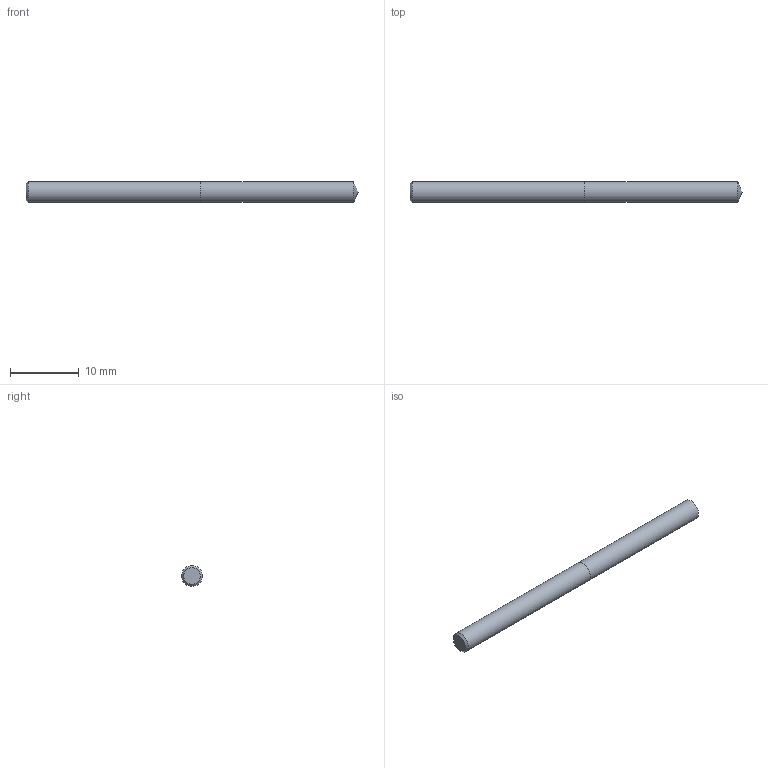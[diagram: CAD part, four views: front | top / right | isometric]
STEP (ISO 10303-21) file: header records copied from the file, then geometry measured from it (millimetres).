
FILE_DESCRIPTION (( 'STEP AP214' ), '1' );
FILE_NAME ('03-2373.STEP', '2022-06-03T06:53:43', ( 'USER' ), ( '' ), 'SwSTEP 2.0', 'SolidWorks 2018', '' );
FILE_SCHEMA (( 'AUTOMOTIVE_DESIGN' ));
Length unit declared in the file: inch
Products named in the file (1): 03-2373
Bounding box: 48.26 x 3.05 x 3.05 mm (x, y, z)
Volume: 348.6 mm3; surface area: 484 mm2
Topology: 2 solids, 2 shells, 7 faces, 11 edges, 7 vertices
Faces by surface type: plane 3, cylinder 2, cone 2
Full cylindrical faces by diameter (mm): 3.048 x2
Entity records: 214 total; most frequent: DIRECTION 26, CARTESIAN_POINT 18, AXIS2_PLACEMENT_3D 13, EDGE_LOOP 10, ORIENTED_EDGE 10, FACE_OUTER_BOUND 9, UNCERTAINTY_MEASURE_WITH_UNIT 7, DIMENSIONAL_EXPONENTS 7
